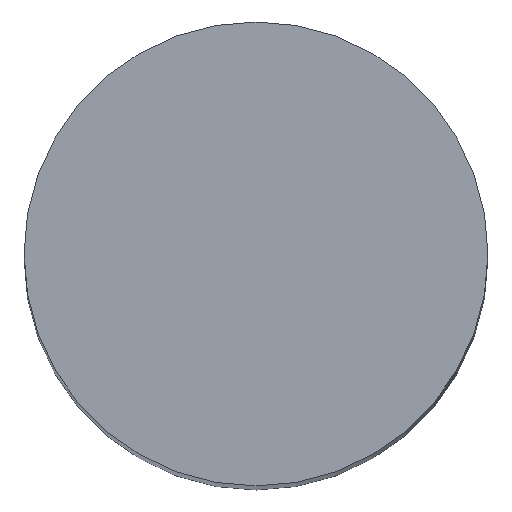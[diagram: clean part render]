
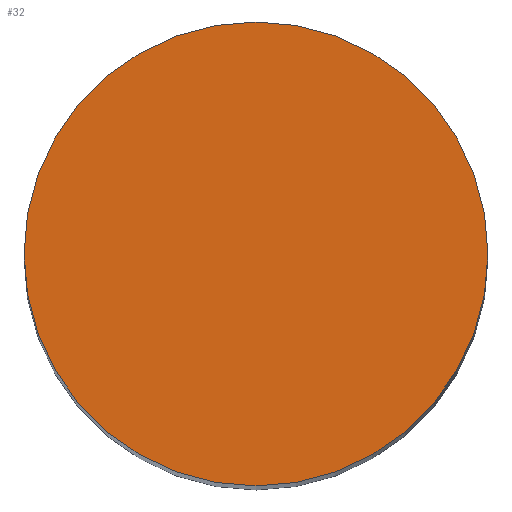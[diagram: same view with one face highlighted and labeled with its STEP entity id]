
A CAD part, top view. The second image highlights one B-rep face of the part: STEP entity #32.
In plain terms, the highlighted planar face has unit normal (0, 0, 1).
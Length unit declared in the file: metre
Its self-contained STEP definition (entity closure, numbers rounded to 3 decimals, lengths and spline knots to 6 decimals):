
#32 = ADVANCED_FACE( '', ( #60 ), #61, .T. );
#60 = FACE_OUTER_BOUND( '', #81, .T. );
#61 = PLANE( '', #82 );
#81 = EDGE_LOOP( '', ( #100 ) );
#82 = AXIS2_PLACEMENT_3D( '', #101, #102, #103 );
#100 = ORIENTED_EDGE( '', *, *, #113, .T. );
#101 = CARTESIAN_POINT( '', ( 0., 0., 0.06 ) );
#102 = DIRECTION( '', ( 0., 0., 1. ) );
#103 = DIRECTION( '', ( 1., 0., 0. ) );
#113 = EDGE_CURVE( '', #121, #121, #122, .T. );
#121 = VERTEX_POINT( '', #131 );
#122 = CIRCLE( '', #132, 0.003468 );
#131 = CARTESIAN_POINT( '', ( 0.003468, 0., 0.06 ) );
#132 = AXIS2_PLACEMENT_3D( '', #140, #141, #142 );
#140 = CARTESIAN_POINT( '', ( 0., 0., 0.06 ) );
#141 = DIRECTION( '', ( 0., 0., 1. ) );
#142 = DIRECTION( '', ( 1., 0., 0. ) );
